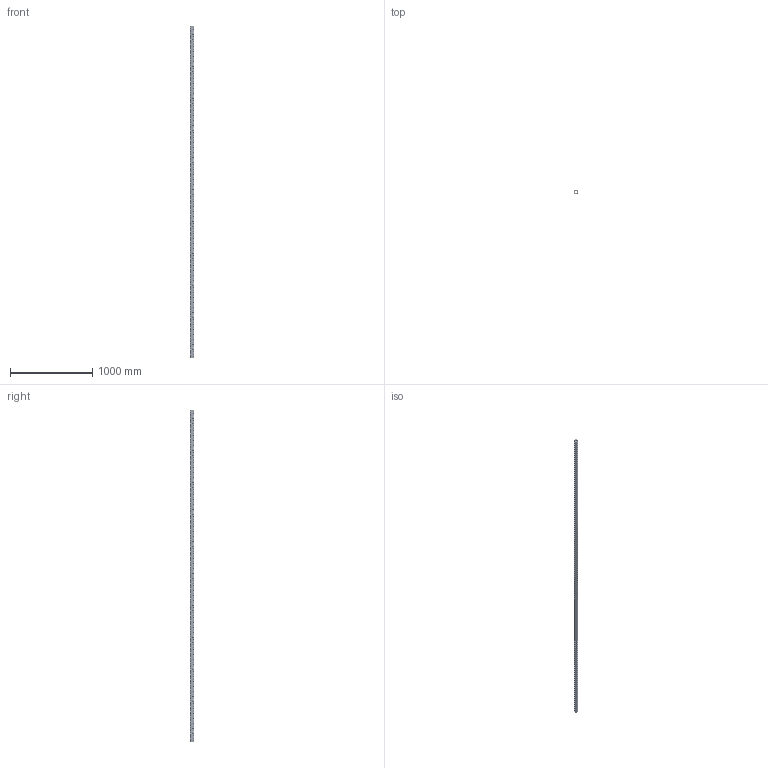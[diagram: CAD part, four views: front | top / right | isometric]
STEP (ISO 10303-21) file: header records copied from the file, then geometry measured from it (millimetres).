
FILE_DESCRIPTION(('CATIA V5 STEP Exchange'),'2;1');
FILE_NAME('U:\Room\唐宝山\EGT002\46-01-010364-01-EGT002-4048.stp','2021-08-25T01:12:50+00:00',('none'),('none'),'CATIA Version 5 Release 21 GA (IN-10)','CATIA V5 STEP AP203','none');
FILE_SCHEMA(('CONFIG_CONTROL_DESIGN'));
Products named in the file (1): 46-01-010364-01-EGT002-4048
Bounding box: 50 x 50 x 4048 mm (x, y, z)
Volume: 2884434.1 mm3; surface area: 1388779.3 mm2
Topology: 1 solids, 1 shells, 5484 faces, 15096 edges, 9344 vertices
Faces by surface type: cone 3240, cylinder 2218, plane 26
Entity records: 232512 total; most frequent: CARTESIAN_POINT 100493, ORIENTED_EDGE 30192, DIRECTION 21003, EDGE_CURVE 15096, AXIS2_PLACEMENT_3D 9720, VERTEX_POINT 9344, EDGE_LOOP 7376, VECTOR 5800
